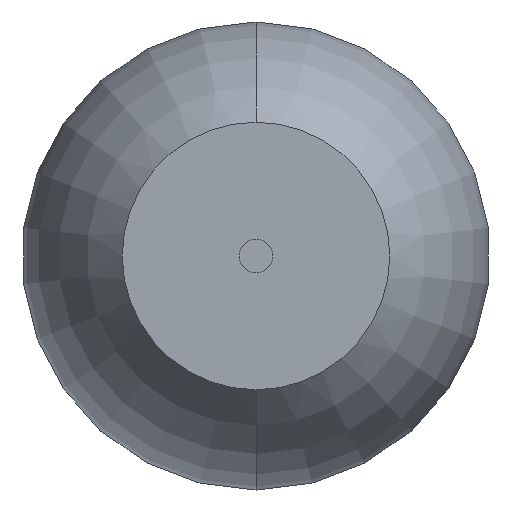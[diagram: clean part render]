
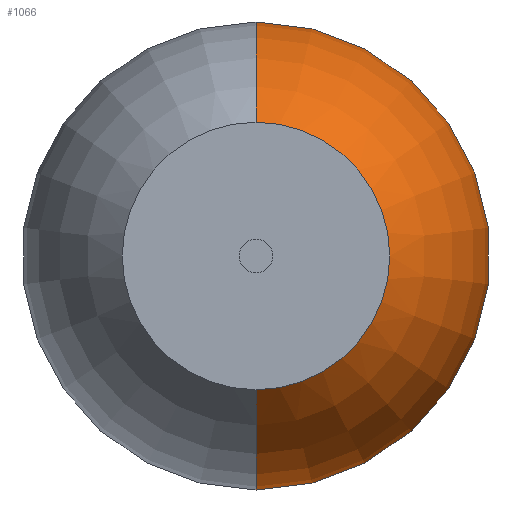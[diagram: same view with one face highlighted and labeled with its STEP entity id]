
A CAD part, left-side view. The second image highlights one B-rep face of the part: STEP entity #1066.
In plain terms, the highlighted toroidal (fillet/blend) face has major radius 3.532 mm and minor radius 10.534 mm.
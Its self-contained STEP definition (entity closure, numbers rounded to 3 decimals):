
#11 = CIRCLE ( 'NONE', #727, 4. ) ;
#19 = DIRECTION ( 'NONE',  ( 0., 0., 1. ) ) ;
#63 = DIRECTION ( 'NONE',  ( 0., 0., 1. ) ) ;
#72 = DIRECTION ( 'NONE',  ( 0., -1., 0. ) ) ;
#104 = ORIENTED_EDGE ( 'NONE', *, *, #822, .T. ) ;
#108 = CIRCLE ( 'NONE', #394, 10.534 ) ;
#222 = ORIENTED_EDGE ( 'NONE', *, *, #287, .T. ) ;
#224 = CARTESIAN_POINT ( 'NONE',  ( 7.364, 0., 0. ) ) ;
#258 = CARTESIAN_POINT ( 'NONE',  ( 15., 0., 0. ) ) ;
#268 = CARTESIAN_POINT ( 'NONE',  ( 0., 0., 0. ) ) ;
#287 = EDGE_CURVE ( 'NONE', #543, #462, #511, .T. ) ;
#368 = EDGE_LOOP ( 'NONE', ( #1000, #222, #104, #1116 ) ) ;
#378 = VERTEX_POINT ( 'NONE', #406 ) ;
#394 = AXIS2_PLACEMENT_3D ( 'NONE', #409, #72, #789 ) ;
#406 = CARTESIAN_POINT ( 'NONE',  ( 0., 0., 4. ) ) ;
#409 = CARTESIAN_POINT ( 'NONE',  ( 7.364, 0., -3.532 ) ) ;
#418 = CARTESIAN_POINT ( 'NONE',  ( 0., 0., -4. ) ) ;
#444 = FACE_OUTER_BOUND ( 'NONE', #368, .T. ) ;
#458 = CIRCLE ( 'NONE', #710, 10.534 ) ;
#462 = VERTEX_POINT ( 'NONE', #1071 ) ;
#511 = CIRCLE ( 'NONE', #816, 3.724 ) ;
#543 = VERTEX_POINT ( 'NONE', #984 ) ;
#565 = EDGE_CURVE ( 'NONE', #543, #1102, #458, .T. ) ;
#623 = DIRECTION ( 'NONE',  ( -1., 0., 0. ) ) ;
#710 = AXIS2_PLACEMENT_3D ( 'NONE', #722, #811, #19 ) ;
#722 = CARTESIAN_POINT ( 'NONE',  ( 7.364, 0., 3.532 ) ) ;
#727 = AXIS2_PLACEMENT_3D ( 'NONE', #268, #623, #882 ) ;
#789 = DIRECTION ( 'NONE',  ( 0., 0., -1. ) ) ;
#811 = DIRECTION ( 'NONE',  ( 0., 1., 0. ) ) ;
#816 = AXIS2_PLACEMENT_3D ( 'NONE', #258, #868, #63 ) ;
#822 = EDGE_CURVE ( 'NONE', #462, #378, #108, .T. ) ;
#868 = DIRECTION ( 'NONE',  ( -1., 0., 0. ) ) ;
#882 = DIRECTION ( 'NONE',  ( 0., 0., 1. ) ) ;
#896 = TOROIDAL_SURFACE ( 'NONE', #928, -3.532, 10.534 ) ;
#899 = EDGE_CURVE ( 'NONE', #1102, #378, #11, .T. ) ;
#928 = AXIS2_PLACEMENT_3D ( 'NONE', #224, #1009, #933 ) ;
#933 = DIRECTION ( 'NONE',  ( 0., 0., 1. ) ) ;
#984 = CARTESIAN_POINT ( 'NONE',  ( 15., 0., -3.724 ) ) ;
#1000 = ORIENTED_EDGE ( 'NONE', *, *, #565, .F. ) ;
#1009 = DIRECTION ( 'NONE',  ( -1., 0., 0. ) ) ;
#1066 = ADVANCED_FACE ( 'NONE', ( #444 ), #896, .T. ) ;
#1071 = CARTESIAN_POINT ( 'NONE',  ( 15., 0., 3.724 ) ) ;
#1102 = VERTEX_POINT ( 'NONE', #418 ) ;
#1116 = ORIENTED_EDGE ( 'NONE', *, *, #899, .F. ) ;
